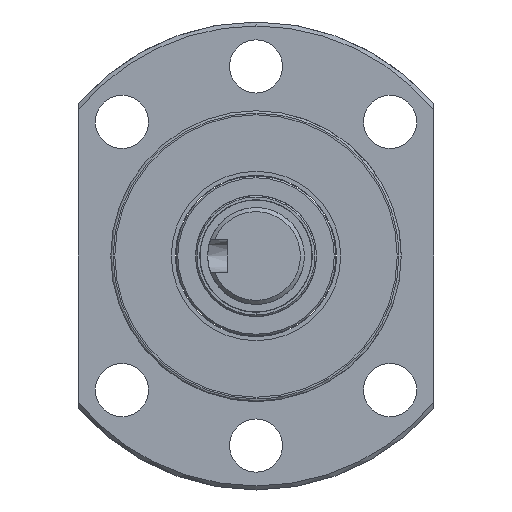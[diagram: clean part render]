
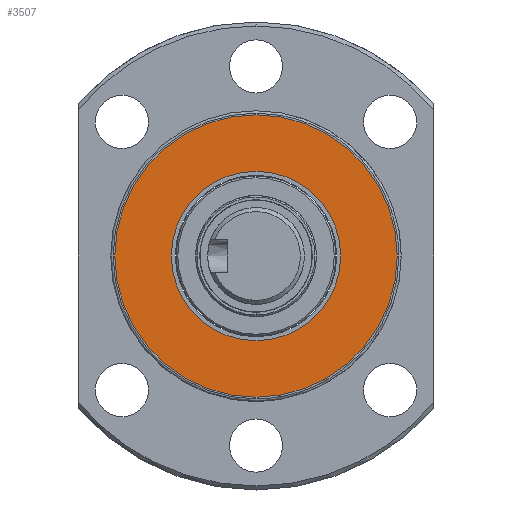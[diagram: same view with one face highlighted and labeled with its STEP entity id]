
A CAD part, left-side view. The second image highlights one B-rep face of the part: STEP entity #3507.
In plain terms, the highlighted planar face has unit normal (-1, 0, 0).
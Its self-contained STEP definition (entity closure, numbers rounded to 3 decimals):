
#352 = FACE_BOUND ( 'NONE', #14679, .T. ) ;
#450 = ORIENTED_EDGE ( 'NONE', *, *, #4116, .T. ) ;
#1506 = CARTESIAN_POINT ( 'NONE',  ( -74.089, 0., 17.5 ) ) ;
#1705 = VERTEX_POINT ( 'NONE', #1506 ) ;
#1847 = AXIS2_PLACEMENT_3D ( 'NONE', #11292, #11048, #15021 ) ;
#1868 = CARTESIAN_POINT ( 'NONE',  ( -74.089, 0., 0. ) ) ;
#1874 = VERTEX_POINT ( 'NONE', #12248 ) ;
#2637 = AXIS2_PLACEMENT_3D ( 'NONE', #11449, #6198, #16724 ) ;
#3507 = ADVANCED_FACE ( 'NONE', ( #352, #6858 ), #14528, .T. ) ;
#4116 = EDGE_CURVE ( 'NONE', #15863, #6791, #12339, .T. ) ;
#4848 = CIRCLE ( 'NONE', #1847, 17.5 ) ;
#5661 = CIRCLE ( 'NONE', #2637, 17.5 ) ;
#5667 = CARTESIAN_POINT ( 'NONE',  ( -74.089, 0., -10.5 ) ) ;
#6198 = DIRECTION ( 'NONE',  ( 1., 0., 0. ) ) ;
#6555 = AXIS2_PLACEMENT_3D ( 'NONE', #12111, #9270, #13227 ) ;
#6791 = VERTEX_POINT ( 'NONE', #7113 ) ;
#6858 = FACE_OUTER_BOUND ( 'NONE', #7484, .T. ) ;
#7113 = CARTESIAN_POINT ( 'NONE',  ( -74.089, 0., 10.5 ) ) ;
#7484 = EDGE_LOOP ( 'NONE', ( #8100, #15289 ) ) ;
#8100 = ORIENTED_EDGE ( 'NONE', *, *, #12595, .F. ) ;
#9270 = DIRECTION ( 'NONE',  ( -1., 0., 0. ) ) ;
#9388 = CARTESIAN_POINT ( 'NONE',  ( -74.089, 0., 0. ) ) ;
#11048 = DIRECTION ( 'NONE',  ( 1., 0., 0. ) ) ;
#11292 = CARTESIAN_POINT ( 'NONE',  ( -74.089, 0., 0. ) ) ;
#11449 = CARTESIAN_POINT ( 'NONE',  ( -74.089, 0., 0. ) ) ;
#11707 = CIRCLE ( 'NONE', #15023, 10.5 ) ;
#12003 = ORIENTED_EDGE ( 'NONE', *, *, #14672, .T. ) ;
#12111 = CARTESIAN_POINT ( 'NONE',  ( -74.089, 14., 0. ) ) ;
#12248 = CARTESIAN_POINT ( 'NONE',  ( -74.089, 0., -17.5 ) ) ;
#12268 = DIRECTION ( 'NONE',  ( 1., 0., 0. ) ) ;
#12339 = CIRCLE ( 'NONE', #15646, 10.5 ) ;
#12595 = EDGE_CURVE ( 'NONE', #1874, #1705, #4848, .T. ) ;
#13227 = DIRECTION ( 'NONE',  ( 0., 0., 1. ) ) ;
#13641 = DIRECTION ( 'NONE',  ( 0., 0., -1. ) ) ;
#13946 = EDGE_CURVE ( 'NONE', #1705, #1874, #5661, .T. ) ;
#14453 = DIRECTION ( 'NONE',  ( 1., 0., 0. ) ) ;
#14528 = PLANE ( 'NONE',  #6555 ) ;
#14672 = EDGE_CURVE ( 'NONE', #6791, #15863, #11707, .T. ) ;
#14679 = EDGE_LOOP ( 'NONE', ( #450, #12003 ) ) ;
#15021 = DIRECTION ( 'NONE',  ( 0., 0., -1. ) ) ;
#15023 = AXIS2_PLACEMENT_3D ( 'NONE', #1868, #12268, #13641 ) ;
#15289 = ORIENTED_EDGE ( 'NONE', *, *, #13946, .F. ) ;
#15646 = AXIS2_PLACEMENT_3D ( 'NONE', #9388, #14453, #15835 ) ;
#15835 = DIRECTION ( 'NONE',  ( 0., 0., -1. ) ) ;
#15863 = VERTEX_POINT ( 'NONE', #5667 ) ;
#16724 = DIRECTION ( 'NONE',  ( 0., 0., -1. ) ) ;
